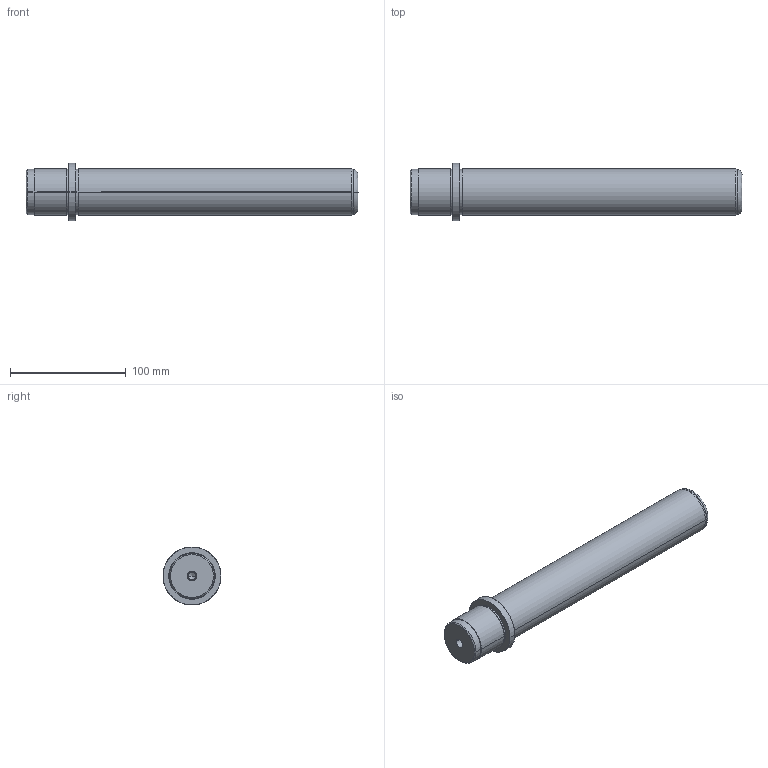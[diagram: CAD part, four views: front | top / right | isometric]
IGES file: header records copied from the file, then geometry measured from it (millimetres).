
Start section: SolidWorks IGES FILE using analytic representation for surfaces
Global section: file name: D:\zzzzz\Delta\D06\40\D06 - 40x250x37.IGS; native system: SolidWorks 2004 by SolidWorks Corporation; preprocessor: Version 5.3; author: Hkn; date: 080327.151157; units: millimetre
Bounding box: 287 x 50 x 50 mm (x, y, z)
Surface area: 41206.2 mm2 (no closed solid volume)
Topology: 0 solids, 0 shells, 39 faces, 1080 edges, 1076 vertices
Faces by surface type: revolution 28, bspline 11
